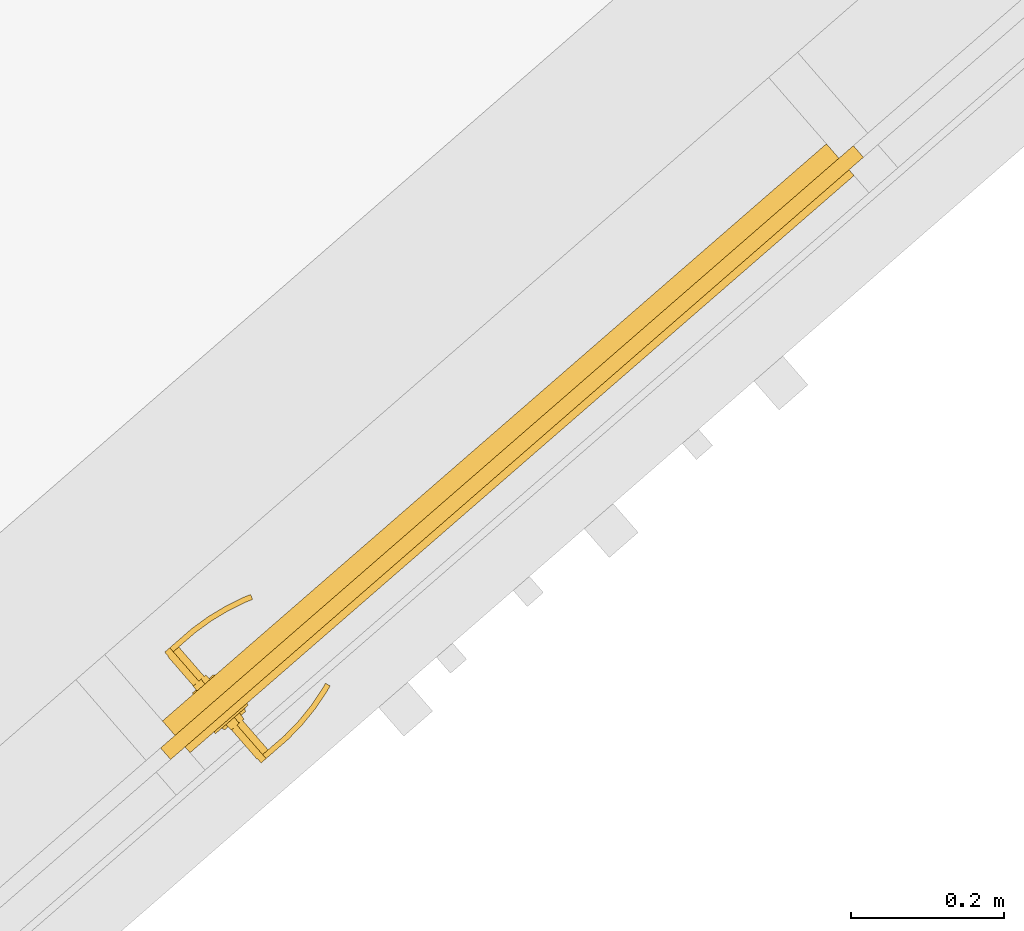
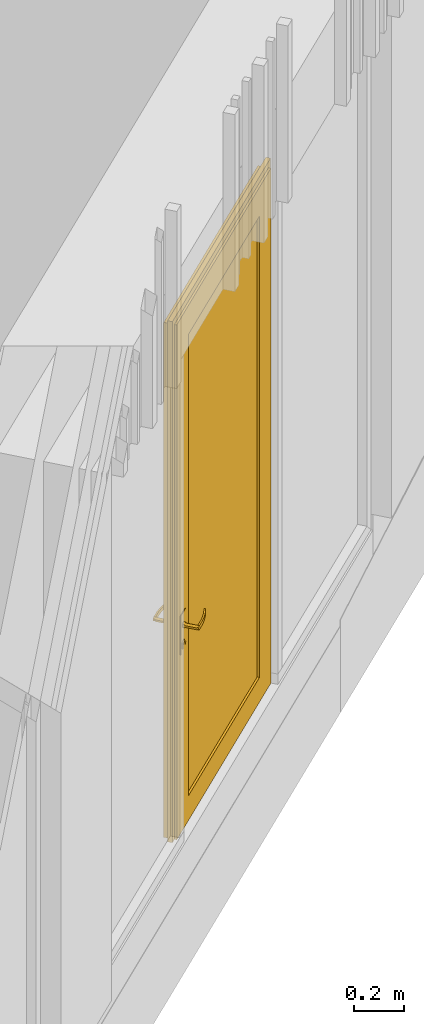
# One storey, part 110 of 124: 1 door, 1 element without a shape of its own.
"""IFC2X3 building model written with IfcOpenShell, lengths in millimetres."""

from ifc_helpers import new_model, entity, si_unit, converted_unit, derived_unit, money_unit, direction, frame, origin_with_axes, place, context, subcontext, project, spatial, open_shell, faceted_brep, surface_model, material, material_list, type_object, element, aggregate, save


model = new_model("IFC2X3")

# Units and contexts
model_context = context("Model", 3, precision=1e-05, world=origin_with_axes(), true_north=direction((0.0, 1.0)))
body_context = subcontext(model_context, "Body", "Model", "MODEL_VIEW")
ifc_project = project(units=[si_unit("LENGTHUNIT", "METRE", prefix="MILLI"), si_unit("AREAUNIT", "SQUARE_METRE"), si_unit("VOLUMEUNIT", "CUBIC_METRE"), converted_unit("PLANEANGLEUNIT", "DEGREE", entity("IfcPlaneAngleMeasure", 0.0174532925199), si_unit("PLANEANGLEUNIT", "RADIAN"), dimensions=[0, 0, 0, 0, 0, 0, 0]), si_unit("SOLIDANGLEUNIT", "STERADIAN"), money_unit("EUR"), converted_unit("TIMEUNIT", "Year", entity("IfcTimeMeasure", 31556926.0), si_unit("TIMEUNIT", "SECOND"), dimensions=[0, 0, 1, 0, 0, 0, 0]), si_unit("MASSUNIT", "GRAM", prefix="KILO"), si_unit("THERMODYNAMICTEMPERATUREUNIT", "DEGREE_CELSIUS"), si_unit("LUMINOUSINTENSITYUNIT", "LUMEN"), si_unit("ENERGYUNIT", "JOULE", prefix="MEGA"), derived_unit("THERMALCONDUCTANCEUNIT", [(si_unit("POWERUNIT", "WATT"), 1), (si_unit("LENGTHUNIT", "METRE"), -1), (si_unit("THERMODYNAMICTEMPERATUREUNIT", "KELVIN"), -1)]), derived_unit("SPECIFICHEATCAPACITYUNIT", [(si_unit("ENERGYUNIT", "JOULE"), 1), (si_unit("MASSUNIT", "GRAM", prefix="KILO"), -1), (si_unit("THERMODYNAMICTEMPERATUREUNIT", "KELVIN"), -1)]), derived_unit("MASSDENSITYUNIT", [(si_unit("MASSUNIT", "GRAM", prefix="KILO"), 1), (si_unit("VOLUMEUNIT", "CUBIC_METRE"), -1)])], contexts=[model_context])

# Site, building, storey
site_placement = place(None, origin_with_axes())
site = spatial("IfcSite", under=ifc_project, at=site_placement, Name="Site", CompositionType="ELEMENT")
building_placement = place(site_placement, origin_with_axes())
building = spatial("IfcBuilding", under=site, at=building_placement, Name="Building", CompositionType="ELEMENT")
storey_placement = place(building_placement, frame((0.0, 0.0, -1615.0), z_axis=(0.0, 0.0, 1.0), x_axis=(1.0, 0.0, 0.0)))
storey = spatial("IfcBuildingStorey", under=building, at=storey_placement, Name="0  korrus", CompositionType="ELEMENT", Elevation=-1615.0)

# Curtain wall, door
curtain_wall_type = type_object("IfcCurtainWallType", Name="KLF-03", PredefinedType="NOTDEFINED")
curtain_wall_placement = place(storey_placement, frame((165350.074435, 88581.8954704, 0.0), z_axis=(0.0, 0.0, 1.0), x_axis=(1.0, 0.0, 0.0)))
curtain_wall = element("IfcCurtainWall", 1, at=curtain_wall_placement, inside=storey, type_object=curtain_wall_type, Name="Klaasfassaad")
ifc_material_1 = material(Name="Aluminium MUST")
ifc_material_2 = material(Name="Klaas")
ifc_material_list = material_list([ifc_material_1, ifc_material_1, ifc_material_1, ifc_material_1, ifc_material_1, ifc_material_1, ifc_material_1, ifc_material_1, ifc_material_1, ifc_material_1, ifc_material_1, ifc_material_1, ifc_material_1, ifc_material_2, ifc_material_1, ifc_material_1, ifc_material_1, ifc_material_1, ifc_material_1, ifc_material_1, ifc_material_1, ifc_material_1, ifc_material_1, ifc_material_1, ifc_material_1, ifc_material_1, ifc_material_1, ifc_material_1])
door_style = type_object("IfcDoorStyle", Name="1200 x 2530 x 20", ConstructionType="NOTDEFINED", OperationType="NOTDEFINED", ParameterTakesPrecedence=False, Sizeable=False)
door_placement = place(curtain_wall_placement, frame((-871.689583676, -757.74815718, 1275.00001896), z_axis=(0.0, 0.0, 1.0), x_axis=(0.754709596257, 0.656059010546, 0.0)))
door = element("IfcDoor", 2, at=door_placement, type_object=door_style, material=ifc_material_list, Name="Klaasfassaadi integreeritud välisuks * CW Door 22", context=body_context, shape_type="SurfaceModel", body=[
    faceted_brep([(-575.000004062, 35.0, -1275.00001896), (-575.000004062, 30.0, -1275.00001896), (-575.000004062, 30.0, 1225.00001151), (-575.000004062, 35.0, 1225.00001151), (-530.000004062, 35.0, -1275.00001896), (-530.000004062, 30.0, -1275.00001896), (-530.000004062, 30.0, 1180.00001151), (-530.000004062, 35.0, 1180.00001151)], [[[0, 1, 2, 3]], [[4, 5, 1, 0]], [[1, 5, 6, 2]], [[3, 2, 6, 7]], [[0, 3, 7, 4]], [[7, 6, 5, 4]]]),
    faceted_brep([(575.000015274, 35.0, 1225.00001151), (575.000015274, 30.0, 1225.00001151), (530.000015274, 30.0, 1180.00001151), (530.000015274, 35.0, 1180.00001151), (-575.000004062, 35.0, 1225.00001151), (-575.000004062, 30.0, 1225.00001151), (-530.000004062, 30.0, 1180.00001151), (-530.000004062, 35.0, 1180.00001151)], [[[0, 1, 2, 3]], [[4, 5, 1, 0]], [[1, 5, 6, 2]], [[3, 2, 6, 7]], [[0, 3, 7, 4]], [[7, 6, 5, 4]]]),
    faceted_brep([(575.000015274, 35.0, -1275.00001896), (575.000015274, 30.0, -1275.00001896), (530.000015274, 30.0, -1275.00001896), (530.000015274, 35.0, -1275.00001896), (575.000015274, 35.0, 1225.00001151), (575.000015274, 30.0, 1225.00001151), (530.000015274, 30.0, 1180.00001151), (530.000015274, 35.0, 1180.00001151)], [[[0, 1, 2, 3]], [[4, 5, 1, 0]], [[1, 5, 6, 2]], [[3, 2, 6, 7]], [[0, 3, 7, 4]], [[7, 6, 5, 4]]]),
    faceted_brep([(-575.000004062, 30.0, -1275.00001896), (-575.000004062, -20.0, -1275.00001896), (-575.000004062, -20.0, 1225.00001151), (-575.000004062, 30.0, 1225.00001151), (-555.000004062, 30.0, -1275.00001896), (-555.000004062, -20.0, -1275.00001896), (-555.000004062, -20.0, 1205.00001151), (-555.000004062, 30.0, 1205.00001151)], [[[0, 1, 2, 3]], [[4, 5, 1, 0]], [[1, 5, 6, 2]], [[3, 2, 6, 7]], [[0, 3, 7, 4]], [[7, 6, 5, 4]]]),
    faceted_brep([(575.000015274, 30.0, 1225.00001151), (575.000015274, -20.0, 1225.00001151), (555.000015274, -20.0, 1205.00001151), (555.000015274, 30.0, 1205.00001151), (-575.000004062, 30.0, 1225.00001151), (-575.000004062, -20.0, 1225.00001151), (-555.000004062, -20.0, 1205.00001151), (-555.000004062, 30.0, 1205.00001151)], [[[0, 1, 2, 3]], [[4, 5, 1, 0]], [[1, 5, 6, 2]], [[3, 2, 6, 7]], [[0, 3, 7, 4]], [[7, 6, 5, 4]]]),
    faceted_brep([(575.000015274, 30.0, -1275.00001896), (575.000015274, -20.0, -1275.00001896), (555.000015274, -20.0, -1275.00001896), (555.000015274, 30.0, -1275.00001896), (575.000015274, 30.0, 1225.00001151), (575.000015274, -20.0, 1225.00001151), (555.000015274, -20.0, 1205.00001151), (555.000015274, 30.0, 1205.00001151)], [[[0, 1, 2, 3]], [[4, 5, 1, 0]], [[1, 5, 6, 2]], [[3, 2, 6, 7]], [[0, 3, 7, 4]], [[7, 6, 5, 4]]]),
    faceted_brep([(-599.999993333, 10.0, -1275.00001896), (-599.999993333, -10.0, -1275.00001896), (-599.999993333, -10.0, 1255.00000078), (-599.999993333, 10.0, 1255.00000078), (-575.000004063, 10.0, -1275.00001896), (-575.000004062, -10.0, -1275.00001896), (-575.000004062, -10.0, 1225.00001151), (-575.000004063, 10.0, 1225.00001151)], [[[0, 1, 2, 3]], [[4, 5, 1, 0]], [[1, 5, 6, 2]], [[3, 2, 6, 7]], [[0, 3, 7, 4]], [[7, 6, 5, 4]]]),
    faceted_brep([(-599.999993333, 10.0, 1255.00000078), (-599.999993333, -10.0, 1255.00000078), (599.999995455, -10.0, 1255.00000078), (599.999995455, 10.0, 1255.00000078), (-575.000004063, 10.0, 1225.00001151), (-575.000004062, -10.0, 1225.00001151), (575.000015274, -10.0, 1225.00001151), (575.000015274, 10.0, 1225.00001151)], [[[0, 1, 2, 3]], [[4, 5, 1, 0]], [[1, 5, 6, 2]], [[3, 2, 6, 7]], [[0, 3, 7, 4]], [[7, 6, 5, 4]]]),
    faceted_brep([(599.999995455, 10.0, 1255.00000078), (599.999995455, -10.0, 1255.00000078), (599.999995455, -10.0, -1275.00001896), (599.999995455, 10.0, -1275.00001896), (575.000015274, 10.0, 1225.00001151), (575.000015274, -10.0, 1225.00001151), (575.000015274, -10.0, -1275.00001896), (575.000015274, 10.0, -1275.00001896)], [[[0, 1, 2, 3]], [[4, 5, 1, 0]], [[1, 5, 6, 2]], [[3, 2, 6, 7]], [[0, 3, 7, 4]], [[7, 6, 5, 4]]]),
    faceted_brep([(435.000015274, 30.0, -1155.00001896), (435.000015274, -20.0, -1155.00001896), (435.000015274, -20.0, 1085.00001151), (435.000015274, 30.0, 1085.00001151), (555.000015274, 30.0, -1275.00001896), (555.000015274, -20.0, -1275.00001896), (555.000015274, -20.0, 1205.00001151), (555.000015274, 30.0, 1205.00001151)], [[[0, 1, 2, 3]], [[4, 5, 1, 0]], [[1, 5, 6, 2]], [[3, 2, 6, 7]], [[0, 3, 7, 4]], [[7, 6, 5, 4]]]),
    faceted_brep([(-555.000004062, 30.0, -1275.00001896), (-555.000004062, -20.0, -1275.00001896), (-555.000004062, -20.0, 1205.00001151), (-555.000004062, 30.0, 1205.00001151), (-435.000004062, 30.0, -1155.00001896), (-435.000004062, -20.0, -1155.00001896), (-435.000004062, -20.0, 1085.00001151), (-435.000004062, 30.0, 1085.00001151)], [[[0, 1, 2, 3]], [[4, 5, 1, 0]], [[1, 5, 6, 2]], [[3, 2, 6, 7]], [[0, 3, 7, 4]], [[7, 6, 5, 4]]]),
    faceted_brep([(-555.000004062, 30.0, -1275.00001896), (-555.000004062, -20.0, -1275.00001896), (-435.000004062, -20.0, -1155.00001896), (-435.000004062, 30.0, -1155.00001896), (555.000015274, 30.0, -1275.00001896), (555.000015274, -20.0, -1275.00001896), (435.000015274, -20.0, -1155.00001896), (435.000015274, 30.0, -1155.00001896)], [[[0, 1, 2, 3]], [[4, 5, 1, 0]], [[1, 5, 6, 2]], [[3, 2, 6, 7]], [[0, 3, 7, 4]], [[7, 6, 5, 4]]]),
    faceted_brep([(555.000015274, 30.0, 1205.00001151), (555.000015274, -20.0, 1205.00001151), (435.000015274, -20.0, 1085.00001151), (435.000015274, 30.0, 1085.00001151), (-555.000004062, 30.0, 1205.00001151), (-555.000004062, -20.0, 1205.00001151), (-435.000004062, -20.0, 1085.00001151), (-435.000004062, 30.0, 1085.00001151)], [[[0, 1, 2, 3]], [[4, 5, 1, 0]], [[1, 5, 6, 2]], [[3, 2, 6, 7]], [[0, 3, 7, 4]], [[7, 6, 5, 4]]]),
    faceted_brep([(435.000015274, 6.0, -1155.00001896), (435.000015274, -10.0, -1155.00001896), (-435.000004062, -10.0, -1155.00001896), (-435.000004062, 6.0, -1155.00001896), (435.000015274, 6.0, 1085.00001151), (435.000015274, -10.0, 1085.00001151), (-435.000004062, -10.0, 1085.00001151), (-435.000004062, 6.0, 1085.00001151)], [[[0, 1, 2, 3]], [[4, 5, 1, 0]], [[1, 5, 6, 2]], [[3, 2, 6, 7]], [[0, 3, 7, 4]], [[7, 6, 5, 4]]]),
    faceted_brep([(-533.500004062, -20.0, -215.000018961), (-533.500004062, -23.0, -215.000018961), (-476.500004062, -23.0, -215.000018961), (-476.500004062, -20.0, -215.000018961), (-533.500004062, -20.0, -405.000018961), (-533.500004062, -23.0, -405.000018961), (-476.500004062, -23.0, -405.000018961), (-476.500004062, -20.0, -405.000018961)], [[[0, 1, 2, 3]], [[4, 5, 1, 0]], [[1, 5, 6, 2]], [[3, 2, 6, 7]], [[0, 3, 7, 4]], [[7, 6, 5, 4]]]),
    surface_model("IfcShellBasedSurfaceModel", [(-505.000004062, -84.0, -285.000018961), (-505.000004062, -91.0, -285.000018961), (-513.6602581, -91.0, -280.000018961), (-513.6602581, -84.0, -280.000018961), (-480.000004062, -84.0, -285.000018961), (-480.000004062, -91.0, -285.000018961), (-480.000004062, -91.0, -265.000018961), (-505.000004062, -91.0, -265.000018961), (-513.6602581, -91.0, -270.000018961), (-513.6602581, -84.0, -270.000018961), (-505.000004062, -84.0, -265.000018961), (-480.000004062, -84.0, -265.000018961)], [open_shell([[[0, 1, 2, 3]], [[4, 5, 1, 0]], [[1, 5, 6, 7, 8, 2]], [[3, 2, 8, 9]], [[0, 3, 9, 10, 11, 4]], [[10, 7, 6, 11]], [[9, 8, 7, 10]]])]),
    surface_model("IfcShellBasedSurfaceModel", [(-480.000004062, -84.0, -265.000018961), (-466.59609459, -91.0, -265.392718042), (-466.90172119, -84.0, -265.392718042), (-480.000004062, -91.0, -265.000018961), (-439.890287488, -88.6635446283, -266.178116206), (-466.90172119, -84.0, -284.607319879), (-480.000004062, -84.0, -285.000018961), (-480.000004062, -91.0, -285.000018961), (-466.59609459, -91.0, -284.607319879), (-439.890287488, -88.6635446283, -283.821921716), (-440.804841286, -81.716818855, -266.178116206), (-440.804841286, -81.716818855, -283.821921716), (-413.489739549, -84.0084157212, -283.036523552), (-413.489739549, -84.0084157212, -266.963514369), (-415.006260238, -77.1678329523, -266.963514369), (-415.006260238, -77.1678329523, -283.036523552), (-387.595374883, -77.0700416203, -282.251125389), (-387.595374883, -77.0700416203, -267.748912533), (-389.702320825, -70.3876628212, -267.748912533), (-389.702320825, -70.3876628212, -282.251125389), (-379.538799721, -74.1376880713, -282.000018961), (-379.538799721, -74.1376880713, -268.000018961), (-381.829446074, -67.5221707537, -268.000018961), (-381.829446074, -67.5221707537, -282.000018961)], [open_shell([[[0, 1, 2]], [[0, 3, 1]], [[2, 1, 4]], [[0, 2, 5, 6]], [[3, 7, 8, 1]], [[1, 8, 9, 4]], [[2, 4, 10]], [[2, 10, 11, 5]], [[5, 7, 6]], [[5, 8, 7]], [[11, 9, 8]], [[4, 9, 12, 13]], [[10, 4, 13]], [[10, 14, 15, 11]], [[11, 8, 5]], [[15, 9, 11]], [[15, 12, 9]], [[13, 12, 16, 17]], [[10, 13, 14]], [[14, 18, 19, 15]], [[19, 12, 15]], [[19, 16, 12]], [[17, 16, 20, 21]], [[14, 13, 17]], [[14, 17, 18]], [[18, 22, 23, 19]], [[23, 16, 19]], [[23, 20, 16]], [[22, 21, 20, 23]], [[18, 17, 21]], [[18, 21, 22]]])]),
    faceted_brep([(-501.29180013, -33.0, -286.412697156), (-500.982783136, -23.0, -287.363753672), (-492.000004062, -23.0, -275.000018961), (-493.000004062, -33.0, -275.000018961), (-514.708207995, -33.0, -282.053441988), (-515.517224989, -23.0, -282.64122724), (-515.517224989, -23.0, -267.358810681), (-500.982783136, -23.0, -262.636284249), (-501.29180013, -33.0, -263.587340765), (-514.708207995, -33.0, -267.946595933)], [[[0, 1, 2, 3]], [[4, 5, 1, 0]], [[2, 1, 5, 6, 7]], [[3, 2, 7, 8]], [[3, 8, 9, 4, 0]], [[9, 6, 5, 4]], [[8, 7, 6, 9]]]),
    faceted_brep([(-498.819664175, -27.0, -389.021149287), (-498.201630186, -23.0, -390.923262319), (-483.000004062, -23.0, -370.000018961), (-485.000004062, -27.0, -370.000018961), (-521.18034395, -27.0, -381.755724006), (-522.798377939, -23.0, -382.931294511), (-522.798377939, -23.0, -357.06874341), (-498.201630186, -23.0, -349.076775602), (-498.819664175, -27.0, -350.978888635), (-521.18034395, -27.0, -358.244313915)], [[[0, 1, 2, 3]], [[4, 5, 1, 0]], [[2, 1, 5, 6, 7]], [[3, 2, 7, 8]], [[3, 8, 9, 4, 0]], [[9, 6, 5, 4]], [[8, 7, 6, 9]]]),
    faceted_brep([(-502.836885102, -29.0, -367.657414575), (-502.527868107, -27.0, -368.608471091), (-497.000004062, -27.0, -361.000018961), (-498.000004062, -29.0, -361.000018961), (-510.663123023, -29.0, -365.114515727), (-511.472140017, -27.0, -365.702300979), (-511.472140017, -27.0, -356.297736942), (-502.527868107, -27.0, -353.39156683), (-502.836885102, -29.0, -354.342623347), (-510.663123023, -29.0, -356.885522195)], [[[0, 1, 2, 3]], [[4, 5, 1, 0]], [[2, 1, 5, 6, 7]], [[3, 2, 7, 8]], [[3, 8, 9, 4, 0]], [[9, 6, 5, 4]], [[8, 7, 6, 9]]]),
    faceted_brep([(-505.000004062, -33.0, -265.000018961), (-505.000004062, -84.0, -265.000018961), (-495.4894389, -84.0, -271.909849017), (-495.4894389, -33.0, -271.909849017), (-514.510569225, -33.0, -271.909849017), (-514.510569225, -84.0, -271.909849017), (-510.877856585, -84.0, -283.090188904), (-499.12215154, -84.0, -283.090188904), (-499.12215154, -33.0, -283.090188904), (-510.877856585, -33.0, -283.090188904)], [[[0, 1, 2, 3]], [[4, 5, 1, 0]], [[1, 5, 6, 7, 2]], [[3, 2, 7, 8]], [[0, 3, 8, 9, 4]], [[9, 6, 5, 4]], [[8, 7, 6, 9]]]),
    faceted_brep([(-533.500004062, 30.0, -215.000018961), (-476.500004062, 30.0, -215.000018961), (-476.500004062, 33.0, -215.000018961), (-533.500004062, 33.0, -215.000018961), (-533.500004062, 30.0, -405.000018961), (-476.500004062, 30.0, -405.000018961), (-476.500004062, 33.0, -405.000018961), (-533.500004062, 33.0, -405.000018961)], [[[0, 1, 2, 3]], [[0, 4, 5, 1]], [[1, 5, 6, 2]], [[3, 2, 6, 7]], [[4, 0, 3, 7]], [[5, 4, 7, 6]]]),
    surface_model("IfcShellBasedSurfaceModel", [(-505.000004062, 94.0, -285.000018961), (-513.6602581, 94.0, -280.000018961), (-513.6602581, 101.0, -280.000018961), (-505.000004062, 101.0, -285.000018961), (-480.000004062, 94.0, -285.000018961), (-480.000004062, 94.0, -265.000018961), (-505.000004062, 94.0, -265.000018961), (-513.6602581, 94.0, -270.000018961), (-513.6602581, 101.0, -270.000018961), (-505.000004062, 101.0, -265.000018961), (-480.000004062, 101.0, -265.000018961), (-480.000004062, 101.0, -285.000018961)], [open_shell([[[0, 1, 2, 3]], [[0, 4, 5, 6, 7, 1]], [[1, 7, 8, 2]], [[3, 2, 8, 9, 10, 11]], [[4, 0, 3, 11]], [[6, 5, 10, 9]], [[7, 6, 9, 8]]])]),
    surface_model("IfcShellBasedSurfaceModel", [(-480.000004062, 94.0, -265.000018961), (-466.90172119, 94.0, -265.392718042), (-466.59609459, 101.0, -265.392718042), (-480.000004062, 94.0, -285.000018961), (-466.90172119, 94.0, -284.607319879), (-439.890287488, 98.6635446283, -266.178116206), (-480.000004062, 101.0, -265.000018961), (-480.000004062, 101.0, -285.000018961), (-440.804841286, 91.716818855, -283.821921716), (-440.804841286, 91.716818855, -266.178116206), (-439.890287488, 98.6635446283, -283.821921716), (-466.59609459, 101.0, -284.607319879), (-415.006260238, 87.1678329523, -283.036523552), (-415.006260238, 87.1678329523, -266.963514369), (-413.489739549, 94.0084157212, -266.963514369), (-413.489739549, 94.0084157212, -283.036523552), (-389.702320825, 80.3876628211, -282.251125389), (-389.702320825, 80.3876628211, -267.748912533), (-387.595374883, 87.0700416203, -267.748912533), (-387.595374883, 87.0700416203, -282.251125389), (-381.829446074, 77.5221707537, -282.000018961), (-381.829446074, 77.5221707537, -268.000018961), (-379.538799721, 84.1376880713, -268.000018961), (-379.538799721, 84.1376880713, -282.000018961)], [open_shell([[[0, 1, 2]], [[0, 3, 4, 1]], [[1, 5, 2]], [[0, 2, 6]], [[4, 3, 7]], [[1, 4, 8, 9]], [[1, 9, 5]], [[2, 5, 10, 11]], [[6, 2, 11, 7]], [[4, 7, 11]], [[8, 4, 11]], [[9, 8, 12, 13]], [[9, 14, 5]], [[5, 14, 15, 10]], [[8, 11, 10]], [[12, 8, 10]], [[13, 12, 16, 17]], [[9, 13, 14]], [[14, 18, 19, 15]], [[12, 10, 15]], [[16, 12, 15]], [[17, 16, 20, 21]], [[13, 17, 18]], [[13, 18, 14]], [[18, 22, 23, 19]], [[16, 15, 19]], [[20, 16, 19]], [[21, 20, 23, 22]], [[17, 21, 22]], [[17, 22, 18]], [[20, 19, 23]]])]),
    faceted_brep([(-501.29180013, 43.0, -286.412697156), (-493.000004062, 43.0, -275.000018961), (-492.000004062, 33.0, -275.000018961), (-500.982783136, 33.0, -287.363753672), (-514.708207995, 43.0, -282.053441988), (-514.708207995, 43.0, -267.946595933), (-501.29180013, 43.0, -263.587340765), (-500.982783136, 33.0, -262.636284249), (-515.517224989, 33.0, -267.358810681), (-515.517224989, 33.0, -282.64122724)], [[[0, 1, 2, 3]], [[1, 0, 4, 5, 6]], [[1, 6, 7, 2]], [[2, 7, 8, 9, 3]], [[4, 0, 3, 9]], [[5, 4, 9, 8]], [[6, 5, 8, 7]]]),
    faceted_brep([(-498.819664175, 37.0, -389.021149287), (-485.000004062, 37.0, -370.000018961), (-483.000004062, 33.0, -370.000018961), (-498.201630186, 33.0, -390.923262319), (-521.18034395, 37.0, -381.755724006), (-521.18034395, 37.0, -358.244313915), (-498.819664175, 37.0, -350.978888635), (-498.201630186, 33.0, -349.076775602), (-522.798377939, 33.0, -357.06874341), (-522.798377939, 33.0, -382.931294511)], [[[0, 1, 2, 3]], [[1, 0, 4, 5, 6]], [[1, 6, 7, 2]], [[2, 7, 8, 9, 3]], [[4, 0, 3, 9]], [[5, 4, 9, 8]], [[6, 5, 8, 7]]]),
    faceted_brep([(-502.836885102, 39.0, -367.657414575), (-498.000004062, 39.0, -361.000018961), (-497.000004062, 37.0, -361.000018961), (-502.527868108, 37.0, -368.608471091), (-510.663123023, 39.0, -365.114515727), (-510.663123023, 39.0, -356.885522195), (-502.836885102, 39.0, -354.342623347), (-502.527868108, 37.0, -353.39156683), (-511.472140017, 37.0, -356.297736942), (-511.472140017, 37.0, -365.702300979)], [[[0, 1, 2, 3]], [[1, 0, 4, 5, 6]], [[1, 6, 7, 2]], [[2, 7, 8, 9, 3]], [[4, 0, 3, 9]], [[5, 4, 9, 8]], [[6, 5, 8, 7]]]),
    faceted_brep([(-505.000004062, 43.0, -265.000018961), (-495.4894389, 43.0, -271.909849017), (-495.4894389, 94.0, -271.909849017), (-505.000004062, 94.0, -265.000018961), (-514.510569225, 43.0, -271.909849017), (-510.877856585, 43.0, -283.090188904), (-499.12215154, 43.0, -283.090188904), (-499.12215154, 94.0, -283.090188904), (-510.877856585, 94.0, -283.090188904), (-514.510569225, 94.0, -271.909849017)], [[[0, 1, 2, 3]], [[0, 4, 5, 6, 1]], [[1, 6, 7, 2]], [[3, 2, 7, 8, 9]], [[4, 0, 3, 9]], [[5, 4, 9, 8]], [[6, 5, 8, 7]]]),
])
aggregate(curtain_wall, [door])

save(model, "model.ifc")
